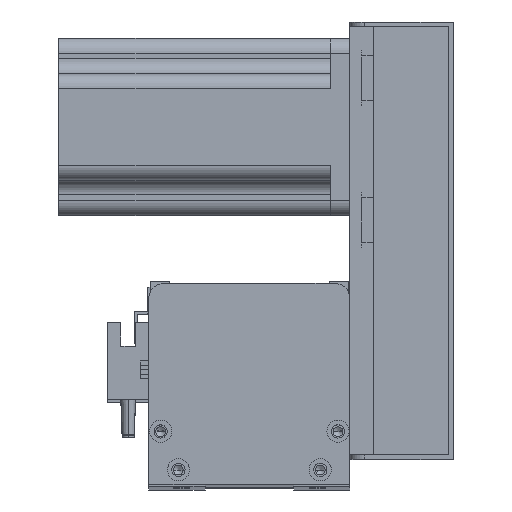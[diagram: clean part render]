
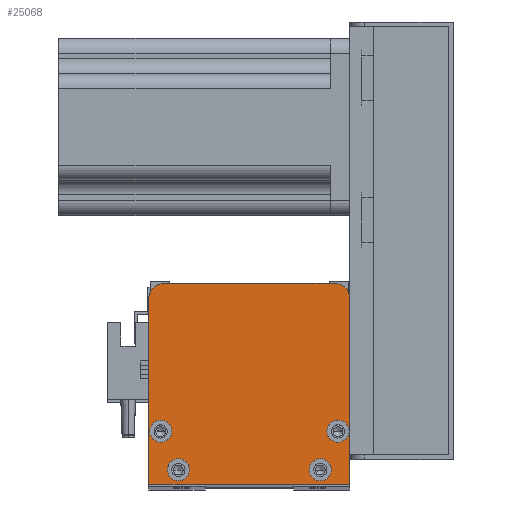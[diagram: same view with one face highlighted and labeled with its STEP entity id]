
A CAD part, top view. The second image highlights one B-rep face of the part: STEP entity #25068.
In plain terms, the highlighted planar face has unit normal (0, 0, 1).
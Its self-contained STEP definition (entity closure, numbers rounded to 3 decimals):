
#57 = EDGE_CURVE ( 'NONE', #17777, #23030, #13279, .T. ) ;
#69 = DIRECTION ( 'NONE',  ( 0., -1., 0. ) ) ;
#214 = CARTESIAN_POINT ( 'NONE',  ( 0., 0., 64. ) ) ;
#754 = DIRECTION ( 'NONE',  ( 1., 0., 0. ) ) ;
#931 = CARTESIAN_POINT ( 'NONE',  ( 68., 0., 64. ) ) ;
#1059 = CIRCLE ( 'NONE', #12361, 3.75 ) ;
#1447 = LINE ( 'NONE', #9747, #13595 ) ;
#1710 = AXIS2_PLACEMENT_3D ( 'NONE', #19456, #12948, #28394 ) ;
#1732 = CARTESIAN_POINT ( 'NONE',  ( 58., 5., 64. ) ) ;
#1835 = VERTEX_POINT ( 'NONE', #23263 ) ;
#2234 = CARTESIAN_POINT ( 'NONE',  ( 4., 18., 64. ) ) ;
#2268 = EDGE_CURVE ( 'NONE', #26600, #1835, #17159, .T. ) ;
#2526 = ORIENTED_EDGE ( 'NONE', *, *, #9951, .T. ) ;
#2567 = VECTOR ( 'NONE', #27363, 1000. ) ;
#3108 = CARTESIAN_POINT ( 'NONE',  ( 58., 5., 64. ) ) ;
#3245 = DIRECTION ( 'NONE',  ( 1., 0., 0. ) ) ;
#3433 = VERTEX_POINT ( 'NONE', #7306 ) ;
#3591 = VERTEX_POINT ( 'NONE', #19901 ) ;
#3596 = AXIS2_PLACEMENT_3D ( 'NONE', #22941, #5285, #14235 ) ;
#4321 = CARTESIAN_POINT ( 'NONE',  ( 64., 18., 64. ) ) ;
#4368 = DIRECTION ( 'NONE',  ( 0., 0., 1. ) ) ;
#4374 = EDGE_CURVE ( 'NONE', #10357, #16662, #18130, .T. ) ;
#4710 = DIRECTION ( 'NONE',  ( 0., 0., 1. ) ) ;
#4992 = DIRECTION ( 'NONE',  ( 0., 0., 1. ) ) ;
#5033 = VERTEX_POINT ( 'NONE', #14958 ) ;
#5042 = CARTESIAN_POINT ( 'NONE',  ( 68., 0., 64. ) ) ;
#5265 = VECTOR ( 'NONE', #69, 1000. ) ;
#5285 = DIRECTION ( 'NONE',  ( 0., 0., 1. ) ) ;
#5909 = EDGE_CURVE ( 'NONE', #10361, #22939, #9028, .T. ) ;
#6039 = CARTESIAN_POINT ( 'NONE',  ( 0., 0., 64. ) ) ;
#6155 = ORIENTED_EDGE ( 'NONE', *, *, #25172, .F. ) ;
#6394 = ORIENTED_EDGE ( 'NONE', *, *, #5909, .F. ) ;
#6864 = ORIENTED_EDGE ( 'NONE', *, *, #2268, .T. ) ;
#7306 = CARTESIAN_POINT ( 'NONE',  ( 54.25, 5., 64. ) ) ;
#7339 = DIRECTION ( 'NONE',  ( 1., 0., 0. ) ) ;
#7675 = EDGE_LOOP ( 'NONE', ( #14005, #25712 ) ) ;
#7804 = DIRECTION ( 'NONE',  ( 0., 1., 0. ) ) ;
#9028 = CIRCLE ( 'NONE', #24594, 3.75 ) ;
#9544 = AXIS2_PLACEMENT_3D ( 'NONE', #27428, #26858, #3245 ) ;
#9715 = AXIS2_PLACEMENT_3D ( 'NONE', #3108, #18355, #18649 ) ;
#9747 = CARTESIAN_POINT ( 'NONE',  ( 68., 0., 64. ) ) ;
#9816 = EDGE_CURVE ( 'NONE', #16662, #10357, #21347, .T. ) ;
#9906 = AXIS2_PLACEMENT_3D ( 'NONE', #4321, #11039, #7339 ) ;
#9951 = EDGE_CURVE ( 'NONE', #23030, #15351, #16825, .T. ) ;
#10264 = ORIENTED_EDGE ( 'NONE', *, *, #57, .T. ) ;
#10357 = VERTEX_POINT ( 'NONE', #27434 ) ;
#10361 = VERTEX_POINT ( 'NONE', #27243 ) ;
#10598 = VERTEX_POINT ( 'NONE', #21456 ) ;
#10941 = VECTOR ( 'NONE', #23126, 1000. ) ;
#11039 = DIRECTION ( 'NONE',  ( 0., 0., 1. ) ) ;
#11094 = CARTESIAN_POINT ( 'NONE',  ( 6.25, 5., 64. ) ) ;
#11901 = CIRCLE ( 'NONE', #9715, 3.75 ) ;
#12028 = VERTEX_POINT ( 'NONE', #15314 ) ;
#12361 = AXIS2_PLACEMENT_3D ( 'NONE', #2234, #24058, #26352 ) ;
#12434 = FACE_BOUND ( 'NONE', #7675, .T. ) ;
#12948 = DIRECTION ( 'NONE',  ( 0., 0., 1. ) ) ;
#13279 = LINE ( 'NONE', #6039, #5265 ) ;
#13488 = CIRCLE ( 'NONE', #9544, 3.75 ) ;
#13595 = VECTOR ( 'NONE', #7804, 1000. ) ;
#13665 = DIRECTION ( 'NONE',  ( 0., 0., 1. ) ) ;
#13904 = AXIS2_PLACEMENT_3D ( 'NONE', #1732, #28514, #28321 ) ;
#14005 = ORIENTED_EDGE ( 'NONE', *, *, #25859, .F. ) ;
#14235 = DIRECTION ( 'NONE',  ( 1., 0., 0. ) ) ;
#14958 = CARTESIAN_POINT ( 'NONE',  ( 61.75, 5., 64. ) ) ;
#15182 = ORIENTED_EDGE ( 'NONE', *, *, #25176, .T. ) ;
#15228 = AXIS2_PLACEMENT_3D ( 'NONE', #26624, #4710, #26894 ) ;
#15314 = CARTESIAN_POINT ( 'NONE',  ( 7.75, 18., 64. ) ) ;
#15351 = VERTEX_POINT ( 'NONE', #5042 ) ;
#15358 = ORIENTED_EDGE ( 'NONE', *, *, #16475, .T. ) ;
#15387 = EDGE_CURVE ( 'NONE', #3433, #5033, #11901, .T. ) ;
#15468 = CIRCLE ( 'NONE', #13904, 3.75 ) ;
#15525 = EDGE_LOOP ( 'NONE', ( #6864, #22229, #10264, #2526, #15358, #15182 ) ) ;
#15529 = CARTESIAN_POINT ( 'NONE',  ( 10., 5., 64. ) ) ;
#15621 = EDGE_LOOP ( 'NONE', ( #21803, #21145 ) ) ;
#15678 = DIRECTION ( 'NONE',  ( 1., 0., 0. ) ) ;
#16021 = CARTESIAN_POINT ( 'NONE',  ( 0., 0., 64. ) ) ;
#16475 = EDGE_CURVE ( 'NONE', #15351, #10598, #1447, .T. ) ;
#16662 = VERTEX_POINT ( 'NONE', #28490 ) ;
#16825 = LINE ( 'NONE', #931, #10941 ) ;
#17159 = LINE ( 'NONE', #18588, #2567 ) ;
#17172 = ORIENTED_EDGE ( 'NONE', *, *, #15387, .F. ) ;
#17343 = EDGE_CURVE ( 'NONE', #3591, #12028, #1059, .T. ) ;
#17436 = CIRCLE ( 'NONE', #1710, 5. ) ;
#17632 = CIRCLE ( 'NONE', #21987, 5. ) ;
#17777 = VERTEX_POINT ( 'NONE', #19794 ) ;
#18130 = CIRCLE ( 'NONE', #9906, 3.75 ) ;
#18355 = DIRECTION ( 'NONE',  ( 0., 0., 1. ) ) ;
#18511 = CARTESIAN_POINT ( 'NONE',  ( 63., 68., 64. ) ) ;
#18588 = CARTESIAN_POINT ( 'NONE',  ( 68., 68., 64. ) ) ;
#18649 = DIRECTION ( 'NONE',  ( 1., 0., 0. ) ) ;
#19456 = CARTESIAN_POINT ( 'NONE',  ( 5., 63., 64. ) ) ;
#19536 = EDGE_LOOP ( 'NONE', ( #6394, #6155 ) ) ;
#19546 = ORIENTED_EDGE ( 'NONE', *, *, #19903, .F. ) ;
#19794 = CARTESIAN_POINT ( 'NONE',  ( 0., 63., 64. ) ) ;
#19901 = CARTESIAN_POINT ( 'NONE',  ( 0.25, 18., 64. ) ) ;
#19903 = EDGE_CURVE ( 'NONE', #5033, #3433, #15468, .T. ) ;
#20411 = FACE_OUTER_BOUND ( 'NONE', #15525, .T. ) ;
#21145 = ORIENTED_EDGE ( 'NONE', *, *, #9816, .F. ) ;
#21347 = CIRCLE ( 'NONE', #15228, 3.75 ) ;
#21456 = CARTESIAN_POINT ( 'NONE',  ( 68., 63., 64. ) ) ;
#21803 = ORIENTED_EDGE ( 'NONE', *, *, #4374, .F. ) ;
#21987 = AXIS2_PLACEMENT_3D ( 'NONE', #25157, #4992, #754 ) ;
#22123 = FACE_BOUND ( 'NONE', #15621, .T. ) ;
#22229 = ORIENTED_EDGE ( 'NONE', *, *, #22810, .T. ) ;
#22810 = EDGE_CURVE ( 'NONE', #1835, #17777, #17436, .T. ) ;
#22939 = VERTEX_POINT ( 'NONE', #11094 ) ;
#22941 = CARTESIAN_POINT ( 'NONE',  ( 10., 5., 64. ) ) ;
#23030 = VERTEX_POINT ( 'NONE', #16021 ) ;
#23126 = DIRECTION ( 'NONE',  ( 1., 0., 0. ) ) ;
#23263 = CARTESIAN_POINT ( 'NONE',  ( 5., 68., 64. ) ) ;
#24058 = DIRECTION ( 'NONE',  ( 0., 0., 1. ) ) ;
#24265 = DIRECTION ( 'NONE',  ( 1., 0., 0. ) ) ;
#24472 = EDGE_LOOP ( 'NONE', ( #19546, #17172 ) ) ;
#24594 = AXIS2_PLACEMENT_3D ( 'NONE', #15529, #4368, #24265 ) ;
#25068 = ADVANCED_FACE ( 'NONE', ( #22123, #12434, #27650, #26281, #20411 ), #26718, .T. ) ;
#25157 = CARTESIAN_POINT ( 'NONE',  ( 63., 63., 64. ) ) ;
#25172 = EDGE_CURVE ( 'NONE', #22939, #10361, #25230, .T. ) ;
#25176 = EDGE_CURVE ( 'NONE', #10598, #26600, #17632, .T. ) ;
#25230 = CIRCLE ( 'NONE', #3596, 3.75 ) ;
#25712 = ORIENTED_EDGE ( 'NONE', *, *, #17343, .F. ) ;
#25859 = EDGE_CURVE ( 'NONE', #12028, #3591, #13488, .T. ) ;
#26281 = FACE_BOUND ( 'NONE', #24472, .T. ) ;
#26352 = DIRECTION ( 'NONE',  ( 1., 0., 0. ) ) ;
#26600 = VERTEX_POINT ( 'NONE', #18511 ) ;
#26624 = CARTESIAN_POINT ( 'NONE',  ( 64., 18., 64. ) ) ;
#26718 = PLANE ( 'NONE',  #27352 ) ;
#26858 = DIRECTION ( 'NONE',  ( 0., 0., 1. ) ) ;
#26894 = DIRECTION ( 'NONE',  ( 1., 0., 0. ) ) ;
#27243 = CARTESIAN_POINT ( 'NONE',  ( 13.75, 5., 64. ) ) ;
#27352 = AXIS2_PLACEMENT_3D ( 'NONE', #214, #13665, #15678 ) ;
#27363 = DIRECTION ( 'NONE',  ( -1., 0., 0. ) ) ;
#27428 = CARTESIAN_POINT ( 'NONE',  ( 4., 18., 64. ) ) ;
#27434 = CARTESIAN_POINT ( 'NONE',  ( 67.75, 18., 64. ) ) ;
#27650 = FACE_BOUND ( 'NONE', #19536, .T. ) ;
#28321 = DIRECTION ( 'NONE',  ( 1., 0., 0. ) ) ;
#28394 = DIRECTION ( 'NONE',  ( 1., 0., 0. ) ) ;
#28490 = CARTESIAN_POINT ( 'NONE',  ( 60.25, 18., 64. ) ) ;
#28514 = DIRECTION ( 'NONE',  ( 0., 0., 1. ) ) ;
